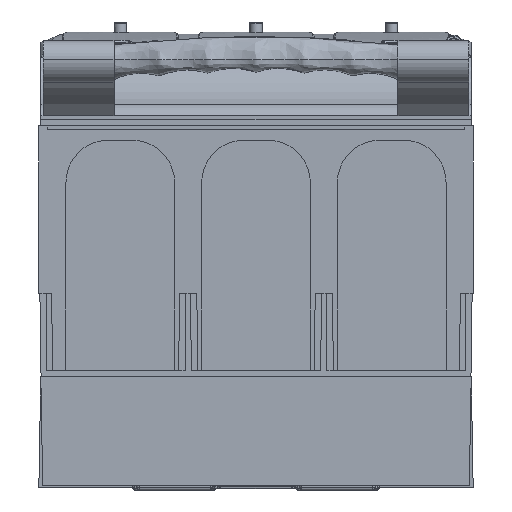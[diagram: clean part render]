
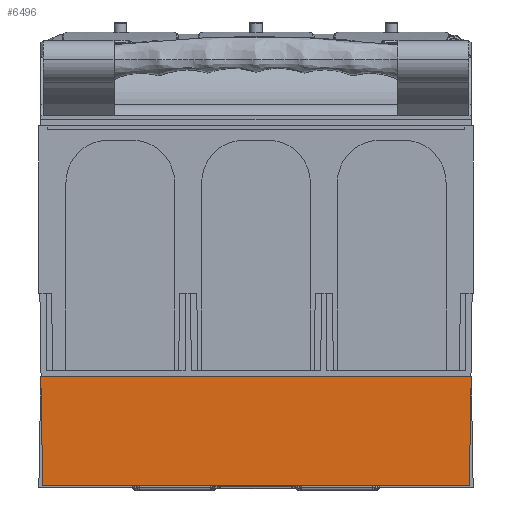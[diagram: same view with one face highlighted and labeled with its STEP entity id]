
A CAD part, left-side view. The second image highlights one B-rep face of the part: STEP entity #6496.
In plain terms, the highlighted planar face has unit normal (-1, 0, 0).
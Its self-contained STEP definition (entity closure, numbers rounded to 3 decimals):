
#6496=ADVANCED_FACE('',(#10001),#7841,.F.);
#7841=PLANE('',#45170);
#10001=FACE_OUTER_BOUND('',#12375,.T.);
#12375=EDGE_LOOP('',(#24543,#24544,#24545,#24546,#24547,#24548));
#24543=ORIENTED_EDGE('',*,*,#34778,.T.);
#24544=ORIENTED_EDGE('',*,*,#34781,.T.);
#24545=ORIENTED_EDGE('',*,*,#32416,.T.);
#24546=ORIENTED_EDGE('',*,*,#34782,.T.);
#24547=ORIENTED_EDGE('',*,*,#34780,.T.);
#24548=ORIENTED_EDGE('',*,*,#34274,.T.);
#27171=VERTEX_POINT('',#77055);
#27182=VERTEX_POINT('',#77084);
#28371=VERTEX_POINT('',#84125);
#28372=VERTEX_POINT('',#84126);
#28647=VERTEX_POINT('',#85897);
#28648=VERTEX_POINT('',#85901);
#32416=EDGE_CURVE('',#27171,#27182,#36446,.T.);
#34274=EDGE_CURVE('',#28371,#28372,#37716,.T.);
#34778=EDGE_CURVE('',#28372,#28647,#37978,.T.);
#34780=EDGE_CURVE('',#28648,#28371,#37980,.T.);
#34781=EDGE_CURVE('',#28647,#27171,#37981,.T.);
#34782=EDGE_CURVE('',#27182,#28648,#37982,.T.);
#36446=LINE('',#77128,#39705);
#37716=LINE('',#84124,#40975);
#37978=LINE('',#85898,#41237);
#37980=LINE('',#85902,#41239);
#37981=LINE('',#85904,#41240);
#37982=LINE('',#85905,#41241);
#39705=VECTOR('',#51820,1.);
#40975=VECTOR('',#55152,1.);
#41237=VECTOR('',#56160,1.);
#41239=VECTOR('',#56164,1.);
#41240=VECTOR('',#56167,1.);
#41241=VECTOR('',#56168,1.);
#45170=AXIS2_PLACEMENT_3D('',#85906,#56169,#56170);
#51820=DIRECTION('',(0.,1.,0.));
#55152=DIRECTION('',(0.,-1.,0.));
#56160=DIRECTION('',(0.,-0.017,1.));
#56164=DIRECTION('',(0.,-0.017,-1.));
#56167=DIRECTION('',(0.,1.,0.));
#56168=DIRECTION('',(0.,1.,0.));
#56169=DIRECTION('',(1.,0.,0.));
#56170=DIRECTION('',(0.,1.,0.));
#77055=CARTESIAN_POINT('',(-109.172,-102.941,76.103));
#77084=CARTESIAN_POINT('',(-109.172,102.941,76.103));
#77128=CARTESIAN_POINT('',(-109.172,-104.,76.103));
#84124=CARTESIAN_POINT('',(-109.172,-103.,23.779));
#84125=CARTESIAN_POINT('',(-109.172,102.147,23.779));
#84126=CARTESIAN_POINT('',(-109.172,-102.147,23.779));
#85897=CARTESIAN_POINT('',(-109.172,-103.06,76.103));
#85898=CARTESIAN_POINT('',(-109.172,-104.457,156.095));
#85901=CARTESIAN_POINT('',(-109.172,103.06,76.103));
#85902=CARTESIAN_POINT('',(-109.172,104.393,152.465));
#85904=CARTESIAN_POINT('',(-109.172,-104.,76.103));
#85905=CARTESIAN_POINT('',(-109.172,-104.,76.103));
#85906=CARTESIAN_POINT('',(-109.172,-104.,156.103));
